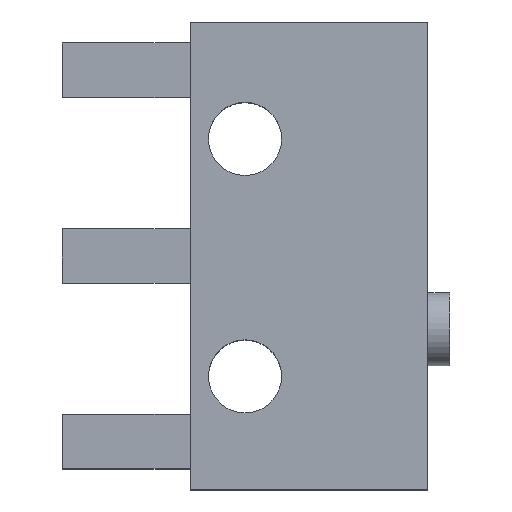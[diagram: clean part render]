
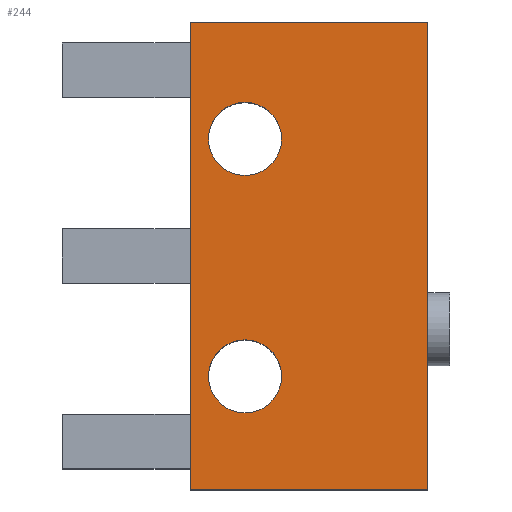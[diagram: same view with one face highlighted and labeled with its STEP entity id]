
A CAD part, top view. The second image highlights one B-rep face of the part: STEP entity #244.
In plain terms, the highlighted planar face has unit normal (0, 0, 1).
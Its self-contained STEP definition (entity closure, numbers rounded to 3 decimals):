
#24 = VERTEX_POINT('',#25);
#25 = CARTESIAN_POINT('',(23.912,45.6,17.9));
#32 = PLANE('',#33);
#33 = AXIS2_PLACEMENT_3D('',#34,#35,#36);
#34 = CARTESIAN_POINT('',(23.912,45.6,12.1));
#35 = DIRECTION('',(-1.,-0.,0.));
#36 = DIRECTION('',(0.,0.,-1.));
#44 = PLANE('',#45);
#45 = AXIS2_PLACEMENT_3D('',#46,#47,#48);
#46 = CARTESIAN_POINT('',(23.912,45.6,12.1));
#47 = DIRECTION('',(-0.,1.,0.));
#48 = DIRECTION('',(0.,0.,-1.));
#85 = VERTEX_POINT('',#86);
#86 = CARTESIAN_POINT('',(23.912,58.4,17.9));
#100 = PLANE('',#101);
#101 = AXIS2_PLACEMENT_3D('',#102,#103,#104);
#102 = CARTESIAN_POINT('',(23.912,58.4,12.1));
#103 = DIRECTION('',(-0.,1.,0.));
#104 = DIRECTION('',(0.,0.,-1.));
#112 = EDGE_CURVE('',#24,#85,#113,.T.);
#113 = SURFACE_CURVE('',#114,(#118,#125),.PCURVE_S1.);
#114 = LINE('',#115,#116);
#115 = CARTESIAN_POINT('',(23.912,45.6,17.9));
#116 = VECTOR('',#117,1.);
#117 = DIRECTION('',(-0.,1.,0.));
#118 = PCURVE('',#32,#119);
#119 = DEFINITIONAL_REPRESENTATION('',(#120),#124);
#120 = LINE('',#121,#122);
#121 = CARTESIAN_POINT('',(-5.8,-0.));
#122 = VECTOR('',#123,1.);
#123 = DIRECTION('',(-0.,-1.));
#124 = ( GEOMETRIC_REPRESENTATION_CONTEXT(2) 
PARAMETRIC_REPRESENTATION_CONTEXT() REPRESENTATION_CONTEXT('2D SPACE',''
  ) );
#125 = PCURVE('',#126,#131);
#126 = PLANE('',#127);
#127 = AXIS2_PLACEMENT_3D('',#128,#129,#130);
#128 = CARTESIAN_POINT('',(23.912,45.6,17.9));
#129 = DIRECTION('',(0.,0.,1.));
#130 = DIRECTION('',(1.,0.,0.));
#131 = DEFINITIONAL_REPRESENTATION('',(#132),#136);
#132 = LINE('',#133,#134);
#133 = CARTESIAN_POINT('',(0.,-0.));
#134 = VECTOR('',#135,1.);
#135 = DIRECTION('',(-0.,1.));
#136 = ( GEOMETRIC_REPRESENTATION_CONTEXT(2) 
PARAMETRIC_REPRESENTATION_CONTEXT() REPRESENTATION_CONTEXT('2D SPACE',''
  ) );
#196 = EDGE_CURVE('',#24,#197,#199,.T.);
#197 = VERTEX_POINT('',#198);
#198 = CARTESIAN_POINT('',(17.412,45.6,17.9));
#199 = SURFACE_CURVE('',#200,(#204,#211),.PCURVE_S1.);
#200 = LINE('',#201,#202);
#201 = CARTESIAN_POINT('',(23.912,45.6,17.9));
#202 = VECTOR('',#203,1.);
#203 = DIRECTION('',(-1.,-0.,0.));
#204 = PCURVE('',#44,#205);
#205 = DEFINITIONAL_REPRESENTATION('',(#206),#210);
#206 = LINE('',#207,#208);
#207 = CARTESIAN_POINT('',(-5.8,-0.));
#208 = VECTOR('',#209,1.);
#209 = DIRECTION('',(-0.,1.));
#210 = ( GEOMETRIC_REPRESENTATION_CONTEXT(2) 
PARAMETRIC_REPRESENTATION_CONTEXT() REPRESENTATION_CONTEXT('2D SPACE',''
  ) );
#211 = PCURVE('',#126,#212);
#212 = DEFINITIONAL_REPRESENTATION('',(#213),#217);
#213 = LINE('',#214,#215);
#214 = CARTESIAN_POINT('',(0.,-0.));
#215 = VECTOR('',#216,1.);
#216 = DIRECTION('',(-1.,0.));
#217 = ( GEOMETRIC_REPRESENTATION_CONTEXT(2) 
PARAMETRIC_REPRESENTATION_CONTEXT() REPRESENTATION_CONTEXT('2D SPACE',''
  ) );
#233 = PLANE('',#234);
#234 = AXIS2_PLACEMENT_3D('',#235,#236,#237);
#235 = CARTESIAN_POINT('',(17.412,45.6,12.1));
#236 = DIRECTION('',(-1.,-0.,0.));
#237 = DIRECTION('',(0.,0.,-1.));
#244 = ADVANCED_FACE('',(#245,#293,#328),#126,.T.);
#245 = FACE_BOUND('',#246,.F.);
#246 = EDGE_LOOP('',(#247,#248,#249,#272));
#247 = ORIENTED_EDGE('',*,*,#112,.F.);
#248 = ORIENTED_EDGE('',*,*,#196,.T.);
#249 = ORIENTED_EDGE('',*,*,#250,.T.);
#250 = EDGE_CURVE('',#197,#251,#253,.T.);
#251 = VERTEX_POINT('',#252);
#252 = CARTESIAN_POINT('',(17.412,58.4,17.9));
#253 = SURFACE_CURVE('',#254,(#258,#265),.PCURVE_S1.);
#254 = LINE('',#255,#256);
#255 = CARTESIAN_POINT('',(17.412,45.6,17.9));
#256 = VECTOR('',#257,1.);
#257 = DIRECTION('',(-0.,1.,0.));
#258 = PCURVE('',#126,#259);
#259 = DEFINITIONAL_REPRESENTATION('',(#260),#264);
#260 = LINE('',#261,#262);
#261 = CARTESIAN_POINT('',(-6.5,0.));
#262 = VECTOR('',#263,1.);
#263 = DIRECTION('',(-0.,1.));
#264 = ( GEOMETRIC_REPRESENTATION_CONTEXT(2) 
PARAMETRIC_REPRESENTATION_CONTEXT() REPRESENTATION_CONTEXT('2D SPACE',''
  ) );
#265 = PCURVE('',#233,#266);
#266 = DEFINITIONAL_REPRESENTATION('',(#267),#271);
#267 = LINE('',#268,#269);
#268 = CARTESIAN_POINT('',(-5.8,-0.));
#269 = VECTOR('',#270,1.);
#270 = DIRECTION('',(-0.,-1.));
#271 = ( GEOMETRIC_REPRESENTATION_CONTEXT(2) 
PARAMETRIC_REPRESENTATION_CONTEXT() REPRESENTATION_CONTEXT('2D SPACE',''
  ) );
#272 = ORIENTED_EDGE('',*,*,#273,.F.);
#273 = EDGE_CURVE('',#85,#251,#274,.T.);
#274 = SURFACE_CURVE('',#275,(#279,#286),.PCURVE_S1.);
#275 = LINE('',#276,#277);
#276 = CARTESIAN_POINT('',(23.912,58.4,17.9));
#277 = VECTOR('',#278,1.);
#278 = DIRECTION('',(-1.,-0.,0.));
#279 = PCURVE('',#126,#280);
#280 = DEFINITIONAL_REPRESENTATION('',(#281),#285);
#281 = LINE('',#282,#283);
#282 = CARTESIAN_POINT('',(0.,12.8));
#283 = VECTOR('',#284,1.);
#284 = DIRECTION('',(-1.,0.));
#285 = ( GEOMETRIC_REPRESENTATION_CONTEXT(2) 
PARAMETRIC_REPRESENTATION_CONTEXT() REPRESENTATION_CONTEXT('2D SPACE',''
  ) );
#286 = PCURVE('',#100,#287);
#287 = DEFINITIONAL_REPRESENTATION('',(#288),#292);
#288 = LINE('',#289,#290);
#289 = CARTESIAN_POINT('',(-5.8,-0.));
#290 = VECTOR('',#291,1.);
#291 = DIRECTION('',(-0.,1.));
#292 = ( GEOMETRIC_REPRESENTATION_CONTEXT(2) 
PARAMETRIC_REPRESENTATION_CONTEXT() REPRESENTATION_CONTEXT('2D SPACE',''
  ) );
#293 = FACE_BOUND('',#294,.F.);
#294 = EDGE_LOOP('',(#295));
#295 = ORIENTED_EDGE('',*,*,#296,.F.);
#296 = EDGE_CURVE('',#297,#297,#299,.T.);
#297 = VERTEX_POINT('',#298);
#298 = CARTESIAN_POINT('',(17.912,48.7,17.9));
#299 = SURFACE_CURVE('',#300,(#305,#316),.PCURVE_S1.);
#300 = CIRCLE('',#301,1.);
#301 = AXIS2_PLACEMENT_3D('',#302,#303,#304);
#302 = CARTESIAN_POINT('',(18.912,48.7,17.9));
#303 = DIRECTION('',(0.,0.,-1.));
#304 = DIRECTION('',(-1.,-0.,-0.));
#305 = PCURVE('',#126,#306);
#306 = DEFINITIONAL_REPRESENTATION('',(#307),#315);
#307 = ( BOUNDED_CURVE() B_SPLINE_CURVE(2,(#308,#309,#310,#311,#312,#313
,#314),.UNSPECIFIED.,.T.,.F.) B_SPLINE_CURVE_WITH_KNOTS((1,2,2,2,2,1),(
    -2.094,0.,2.094,4.189,6.283,
8.378),.UNSPECIFIED.) CURVE() GEOMETRIC_REPRESENTATION_ITEM() 
RATIONAL_B_SPLINE_CURVE((1.,0.5,1.,0.5,1.,0.5,1.)) REPRESENTATION_ITEM(
  '') );
#308 = CARTESIAN_POINT('',(-6.,3.1));
#309 = CARTESIAN_POINT('',(-6.,4.832));
#310 = CARTESIAN_POINT('',(-4.5,3.966));
#311 = CARTESIAN_POINT('',(-3.,3.1));
#312 = CARTESIAN_POINT('',(-4.5,2.234));
#313 = CARTESIAN_POINT('',(-6.,1.368));
#314 = CARTESIAN_POINT('',(-6.,3.1));
#315 = ( GEOMETRIC_REPRESENTATION_CONTEXT(2) 
PARAMETRIC_REPRESENTATION_CONTEXT() REPRESENTATION_CONTEXT('2D SPACE',''
  ) );
#316 = PCURVE('',#317,#322);
#317 = CYLINDRICAL_SURFACE('',#318,1.);
#318 = AXIS2_PLACEMENT_3D('',#319,#320,#321);
#319 = CARTESIAN_POINT('',(18.912,48.7,11.));
#320 = DIRECTION('',(-0.,-0.,1.));
#321 = DIRECTION('',(-1.,-0.,-0.));
#322 = DEFINITIONAL_REPRESENTATION('',(#323),#327);
#323 = LINE('',#324,#325);
#324 = CARTESIAN_POINT('',(-0.,6.9));
#325 = VECTOR('',#326,1.);
#326 = DIRECTION('',(-1.,0.));
#327 = ( GEOMETRIC_REPRESENTATION_CONTEXT(2) 
PARAMETRIC_REPRESENTATION_CONTEXT() REPRESENTATION_CONTEXT('2D SPACE',''
  ) );
#328 = FACE_BOUND('',#329,.F.);
#329 = EDGE_LOOP('',(#330));
#330 = ORIENTED_EDGE('',*,*,#331,.F.);
#331 = EDGE_CURVE('',#332,#332,#334,.T.);
#332 = VERTEX_POINT('',#333);
#333 = CARTESIAN_POINT('',(17.912,55.2,17.9));
#334 = SURFACE_CURVE('',#335,(#340,#351),.PCURVE_S1.);
#335 = CIRCLE('',#336,1.);
#336 = AXIS2_PLACEMENT_3D('',#337,#338,#339);
#337 = CARTESIAN_POINT('',(18.912,55.2,17.9));
#338 = DIRECTION('',(0.,0.,-1.));
#339 = DIRECTION('',(-1.,-0.,-0.));
#340 = PCURVE('',#126,#341);
#341 = DEFINITIONAL_REPRESENTATION('',(#342),#350);
#342 = ( BOUNDED_CURVE() B_SPLINE_CURVE(2,(#343,#344,#345,#346,#347,#348
,#349),.UNSPECIFIED.,.T.,.F.) B_SPLINE_CURVE_WITH_KNOTS((1,2,2,2,2,1),(
    -2.094,0.,2.094,4.189,6.283,
8.378),.UNSPECIFIED.) CURVE() GEOMETRIC_REPRESENTATION_ITEM() 
RATIONAL_B_SPLINE_CURVE((1.,0.5,1.,0.5,1.,0.5,1.)) REPRESENTATION_ITEM(
  '') );
#343 = CARTESIAN_POINT('',(-6.,9.6));
#344 = CARTESIAN_POINT('',(-6.,11.332));
#345 = CARTESIAN_POINT('',(-4.5,10.466));
#346 = CARTESIAN_POINT('',(-3.,9.6));
#347 = CARTESIAN_POINT('',(-4.5,8.734));
#348 = CARTESIAN_POINT('',(-6.,7.868));
#349 = CARTESIAN_POINT('',(-6.,9.6));
#350 = ( GEOMETRIC_REPRESENTATION_CONTEXT(2) 
PARAMETRIC_REPRESENTATION_CONTEXT() REPRESENTATION_CONTEXT('2D SPACE',''
  ) );
#351 = PCURVE('',#352,#357);
#352 = CYLINDRICAL_SURFACE('',#353,1.);
#353 = AXIS2_PLACEMENT_3D('',#354,#355,#356);
#354 = CARTESIAN_POINT('',(18.912,55.2,11.));
#355 = DIRECTION('',(-0.,-0.,1.));
#356 = DIRECTION('',(-1.,-0.,-0.));
#357 = DEFINITIONAL_REPRESENTATION('',(#358),#362);
#358 = LINE('',#359,#360);
#359 = CARTESIAN_POINT('',(-0.,6.9));
#360 = VECTOR('',#361,1.);
#361 = DIRECTION('',(-1.,0.));
#362 = ( GEOMETRIC_REPRESENTATION_CONTEXT(2) 
PARAMETRIC_REPRESENTATION_CONTEXT() REPRESENTATION_CONTEXT('2D SPACE',''
  ) );
